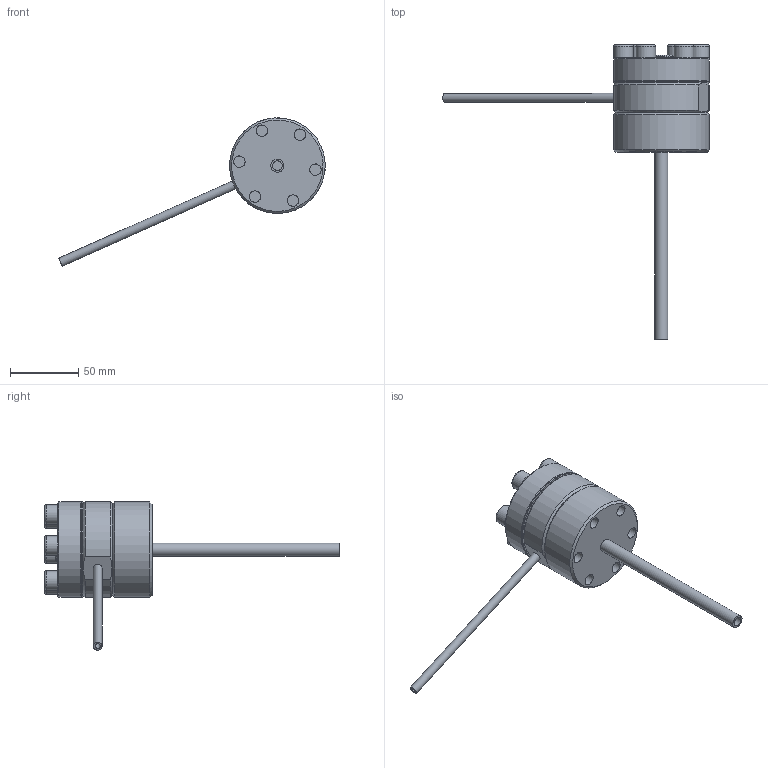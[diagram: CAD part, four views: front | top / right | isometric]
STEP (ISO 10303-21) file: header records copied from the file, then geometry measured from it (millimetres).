
FILE_DESCRIPTION(/* description */ (''),/* implementation_level */ '2;1');
FILE_NAME(/* name */ 'Z:\Models\Instrument Series\BR1\B6R1 External Assembly.stp',/* time_stamp */ '2015-08-13T16:32:45-04:00',/* author */ ('Owner'),/* organization */ (''),/* preprocessor_version */ 'ST-DEVELOPER v15.6',/* originating_system */ 'Autodesk Inventor 2015',/* authorisation */ '');
FILE_SCHEMA (('AUTOMOTIVE_DESIGN { 1 0 10303 214 3 1 1 }'));
Length unit declared in the file: inch
Products named in the file (10): H6P RC; B6R1 External; O-27; O-29; HP1 Diaphragm; B6R LM TS3 EXTERNAL; ANSI B18.3 - 3_8-24 UNF - 2(31); Inlet Tube Stub; Outlet Tube Stub; B6R1 Assembly
Assembly tree (15 placements, depth 2):
  B6R1 Assembly
    H6P RC
    B6R1 External
    O-27
    O-29  x2
    HP1 Diaphragm
    B6R LM TS3 EXTERNAL
    ANSI B18.3 - 3_8-24 UNF - 2(31)  x6
    Inlet Tube Stub
    Outlet Tube Stub
Bounding box: 194.63 x 215.01 x 108.33 mm (x, y, z)
Volume: 267907 mm3; surface area: 84666.8 mm2
Topology: 15 solids, 15 shells, 184 faces, 429 edges, 282 vertices
Faces by surface type: plane 83, cylinder 58, cone 23, torus 20
Full cylindrical faces by diameter (mm): 0.762 x1, 1.778 x1, 3.81 x1, 5.842 x1, 6.35 x2, 6.985 x1, 8.382 x6, 8.611 x1, 9.525 x8, 9.804 x12, 10.084 x6, 14.275 x6, 17.78 x1, 31.318 x1, 36.373 x1, 37.592 x1, 41.123 x1, 69.85 x3
Entity records: 3024 total; most frequent: DIRECTION 538, CARTESIAN_POINT 485, ORIENTED_EDGE 336, AXIS2_PLACEMENT_3D 253, EDGE_LOOP 236, EDGE_CURVE 168, VERTEX_POINT 146, FACE_BOUND 128
